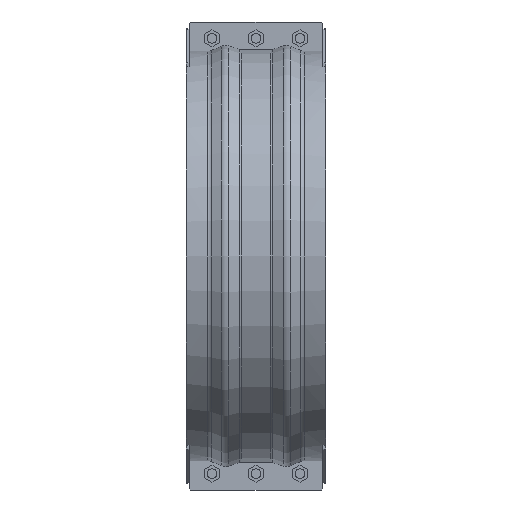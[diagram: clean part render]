
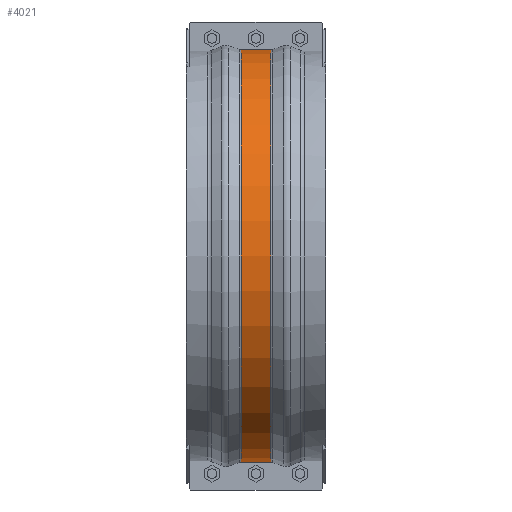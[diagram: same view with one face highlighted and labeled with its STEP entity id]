
A CAD part, front view. The second image highlights one B-rep face of the part: STEP entity #4021.
In plain terms, the highlighted cylindrical face has radius 470.202 mm (diameter 940.404 mm), a partial arc.
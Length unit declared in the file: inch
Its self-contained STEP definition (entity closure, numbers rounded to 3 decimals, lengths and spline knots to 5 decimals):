
#384=FACE_OUTER_BOUND('',#609,.T.);
#609=EDGE_LOOP('',(#3041,#3042,#3043,#3044));
#920=LINE('',#6221,#1293);
#922=LINE('',#6365,#1295);
#1293=VECTOR('',#4970,0.3937);
#1295=VECTOR('',#5024,0.3937);
#1535=CIRCLE('',#4305,18.51189);
#1537=CIRCLE('',#4309,18.51189);
#1796=VERTEX_POINT('',#6213);
#1797=VERTEX_POINT('',#6220);
#1812=VERTEX_POINT('',#6350);
#1814=VERTEX_POINT('',#6363);
#2243=EDGE_CURVE('',#1797,#1796,#920,.T.);
#2268=EDGE_CURVE('',#1812,#1797,#1535,.T.);
#2272=EDGE_CURVE('',#1814,#1796,#1537,.T.);
#2273=EDGE_CURVE('',#1814,#1812,#922,.T.);
#3041=ORIENTED_EDGE('',*,*,#2243,.T.);
#3042=ORIENTED_EDGE('',*,*,#2272,.F.);
#3043=ORIENTED_EDGE('',*,*,#2273,.T.);
#3044=ORIENTED_EDGE('',*,*,#2268,.T.);
#3688=CYLINDRICAL_SURFACE('',#4308,18.51189);
#4021=ADVANCED_FACE('',(#384),#3688,.T.);
#4305=AXIS2_PLACEMENT_3D('',#6351,#5013,#5014);
#4308=AXIS2_PLACEMENT_3D('',#6362,#5020,#5021);
#4309=AXIS2_PLACEMENT_3D('',#6364,#5022,#5023);
#4970=DIRECTION('',(1.,0.,0.));
#5013=DIRECTION('center_axis',(1.,0.,0.));
#5014=DIRECTION('ref_axis',(0.,0.,-1.));
#5020=DIRECTION('center_axis',(1.,0.,0.));
#5021=DIRECTION('ref_axis',(0.,-1.,0.));
#5022=DIRECTION('center_axis',(1.,0.,0.));
#5023=DIRECTION('ref_axis',(0.,0.,-1.));
#5024=DIRECTION('',(-1.,0.,0.));
#6213=CARTESIAN_POINT('',(1.31451,-0.375,-18.50809));
#6220=CARTESIAN_POINT('',(-1.31451,-0.375,-18.50809));
#6221=CARTESIAN_POINT('',(0.,-0.375,-18.50809));
#6350=CARTESIAN_POINT('',(-1.31451,-0.375,18.50809));
#6351=CARTESIAN_POINT('Origin',(-1.31451,0.,
0.));
#6362=CARTESIAN_POINT('Origin',(0.,0.,0.));
#6363=CARTESIAN_POINT('',(1.31451,-0.375,18.50809));
#6364=CARTESIAN_POINT('Origin',(1.31451,0.,0.));
#6365=CARTESIAN_POINT('',(0.,-0.375,18.50809));
